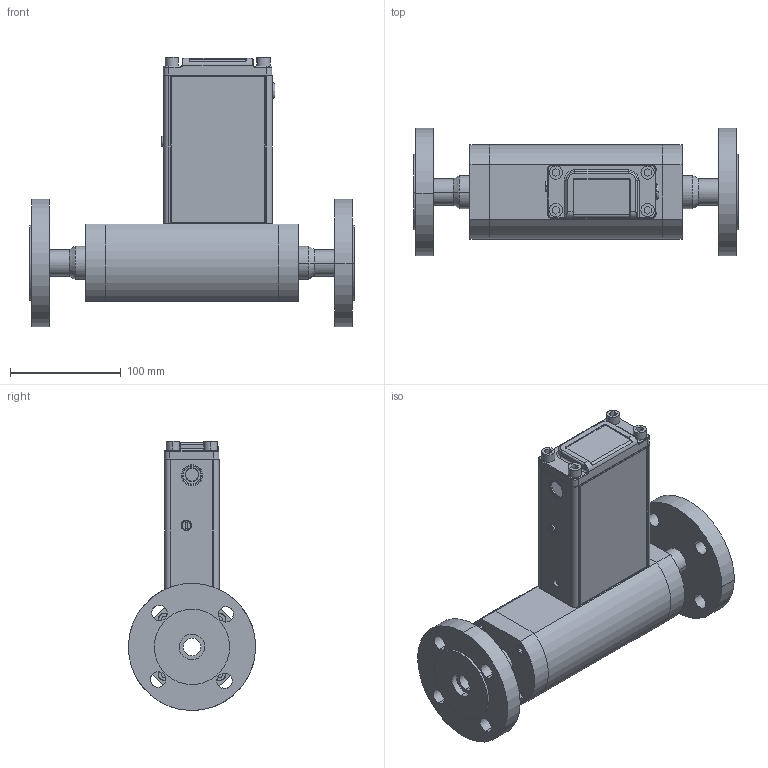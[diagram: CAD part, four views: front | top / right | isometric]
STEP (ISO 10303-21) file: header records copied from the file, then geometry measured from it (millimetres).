
FILE_DESCRIPTION (( 'STEP AP214' ), '1' );
FILE_NAME ('SLAMF63-S-3B-0-Y-REVB.STEP', '2025-02-11T16:23:30', ( '' ), ( '' ), 'SwSTEP 2.0', 'SolidWorks 2023', '' );
FILE_SCHEMA (( 'AUTOMOTIVE_DESIGN' ));
Length unit declared in the file: inch
Products named in the file (1): SLAMF63-S-3B-0-Y-REVB
Bounding box: 293.6 x 115 x 243.12 mm (x, y, z)
Volume: 641081 mm3; surface area: 311760.6 mm2
Topology: 51 solids, 51 shells, 828 faces, 1986 edges, 1290 vertices
Faces by surface type: plane 348, cylinder 310, cone 102, bspline 68
Entity records: 30802 total; most frequent: CARTESIAN_POINT 10821, DIRECTION 4034, ORIENTED_EDGE 3968, EDGE_CURVE 1984, AXIS2_PLACEMENT_3D 1541, VERTEX_POINT 1290, EDGE_LOOP 956, LINE 952
